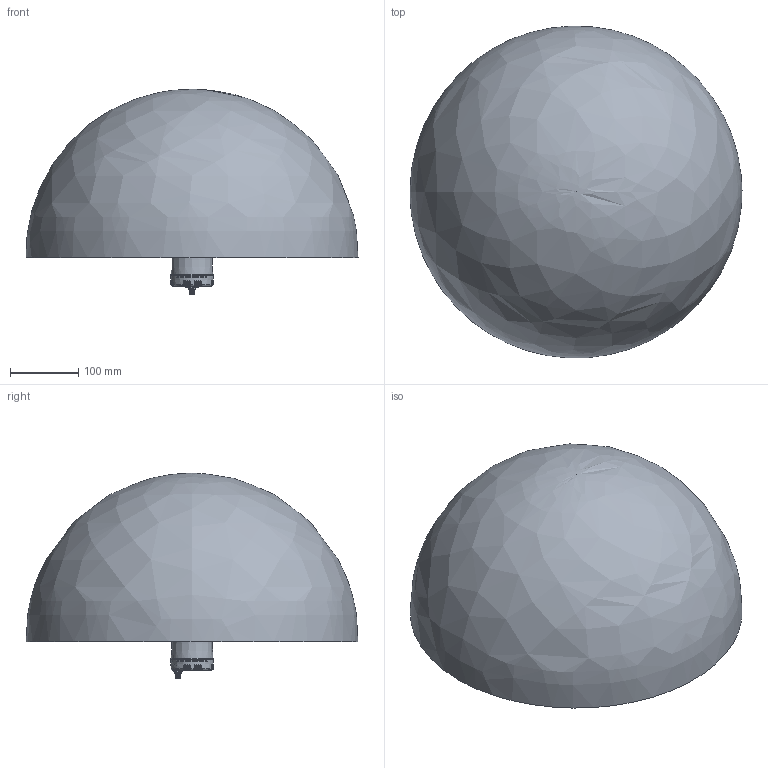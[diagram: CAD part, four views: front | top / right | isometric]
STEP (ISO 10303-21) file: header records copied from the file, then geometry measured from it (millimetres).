
FILE_DESCRIPTION(/* description */ (''),/* implementation_level */ '2;1');
FILE_NAME(/* name */ '290004371_01-JT128整机-开模底出线-外发-1124.stp',/* time_stamp */ '2025-11-24T15:37:17+08:00',/* author */ (''),/* organization */ (''),/* preprocessor_version */ 'ST-DEVELOPER v16.7',/* originating_system */ 'SIEMENS PLM Software NX 1934',/* authorisation */ '');
FILE_SCHEMA (('AUTOMOTIVE_DESIGN { 1 0 10303 214 3 1 1 1 }'));
Products named in the file (1): zhan4A08A26C7oxz
Bounding box: 485.5 x 485.11 x 300.08 mm (x, y, z)
Volume: 29751800.6 mm3; surface area: 604190.4 mm2
Topology: 6 solids, 25 shells, 1623 faces, 3892 edges, 2333 vertices
Faces by surface type: cylinder 522, bspline 370, plane 322, cone 142, torus 125, extrusion 95, sphere 44, revolution 3
Full cylindrical faces by diameter (mm): 2.5 x3, 2.6 x1, 7 x1, 54.773 x1, 56.799 x1, 56.8 x1, 59.8 x2
Entity records: 60953 total; most frequent: CARTESIAN_POINT 23112, ORIENTED_EDGE 7476, DIRECTION 6308, EDGE_CURVE 3738, AXIS2_PLACEMENT_3D 2559, VERTEX_POINT 2301, EDGE_LOOP 1817, ADVANCED_FACE 1623
